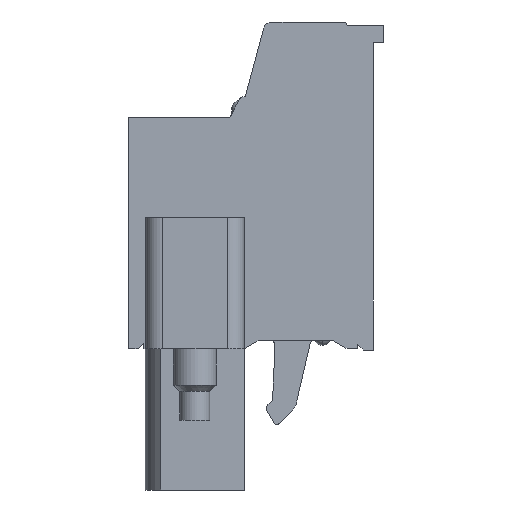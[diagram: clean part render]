
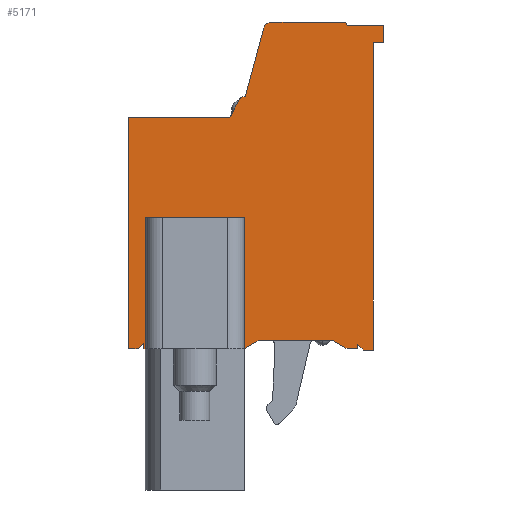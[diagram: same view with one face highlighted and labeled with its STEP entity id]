
A CAD part, front view. The second image highlights one B-rep face of the part: STEP entity #5171.
In plain terms, the highlighted planar face has unit normal (0, -1, 0).
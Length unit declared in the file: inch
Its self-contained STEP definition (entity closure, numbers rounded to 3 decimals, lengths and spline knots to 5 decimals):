
#142=DIRECTION('',(0.,0.,1.));
#143=VECTOR('',#142,0.53543);
#144=CARTESIAN_POINT('',(-0.23418,-1.215,2.78994));
#145=LINE('',#144,#143);
#166=DIRECTION('',(1.,0.,0.));
#167=VECTOR('',#166,0.23498);
#168=CARTESIAN_POINT('',(-0.23418,-1.215,3.32537));
#169=LINE('',#168,#167);
#271=DIRECTION('',(1.,0.,0.));
#272=VECTOR('',#271,0.00592);
#273=CARTESIAN_POINT('',(0.03042,-1.215,3.37261));
#274=LINE('',#273,#272);
#275=DIRECTION('',(0.259,0.,0.966));
#276=VECTOR('',#275,0.16423);
#277=CARTESIAN_POINT('',(0.03633,-1.215,3.37261));
#278=LINE('',#277,#276);
#288=DIRECTION('',(1.,0.,0.));
#289=VECTOR('',#288,0.166);
#290=CARTESIAN_POINT('',(0.09785,-1.215,3.54584));
#291=LINE('',#290,#289);
#308=DIRECTION('',(1.,0.,0.));
#309=VECTOR('',#308,0.08465);
#310=CARTESIAN_POINT('',(0.27172,-1.215,3.53797));
#311=LINE('',#310,#309);
#312=DIRECTION('',(0.,0.,-1.));
#313=VECTOR('',#312,0.03937);
#314=CARTESIAN_POINT('',(0.35637,-1.215,3.53797));
#315=LINE('',#314,#313);
#320=DIRECTION('',(-1.,0.,0.));
#321=VECTOR('',#320,0.02362);
#322=CARTESIAN_POINT('',(0.35637,-1.215,3.4986));
#323=LINE('',#322,#321);
#332=DIRECTION('',(0.,0.,-1.));
#333=VECTOR('',#332,0.71181);
#334=CARTESIAN_POINT('',(0.33275,-1.215,3.4986));
#335=LINE('',#334,#333);
#340=DIRECTION('',(-1.,0.,0.));
#341=VECTOR('',#340,0.02362);
#342=CARTESIAN_POINT('',(0.33275,-1.215,2.78679));
#343=LINE('',#342,#341);
#348=DIRECTION('',(-0.707,0.,0.707));
#349=VECTOR('',#348,0.01949);
#350=CARTESIAN_POINT('',(0.30913,-1.215,2.78679));
#351=LINE('',#350,#349);
#352=DIRECTION('',(0.,0.,-1.));
#353=VECTOR('',#352,0.01063);
#354=CARTESIAN_POINT('',(0.29535,-1.215,2.80057));
#355=LINE('',#354,#353);
#364=DIRECTION('',(-1.,0.,0.));
#365=VECTOR('',#364,0.02362);
#366=CARTESIAN_POINT('',(0.29535,-1.215,2.78994));
#367=LINE('',#366,#365);
#368=DIRECTION('',(-0.866,0.,0.5));
#369=VECTOR('',#368,0.03937);
#370=CARTESIAN_POINT('',(0.27172,-1.215,2.78994));
#371=LINE('',#370,#369);
#376=DIRECTION('',(-1.,0.,0.));
#377=VECTOR('',#376,0.16941);
#378=CARTESIAN_POINT('',(0.23763,-1.215,2.80962));
#379=LINE('',#378,#377);
#392=DIRECTION('',(-0.866,0.,-0.5));
#393=VECTOR('',#392,0.03937);
#394=CARTESIAN_POINT('',(0.06822,-1.215,2.80962));
#395=LINE('',#394,#393);
#1156=DIRECTION('',(0.,0.,1.));
#1157=VECTOR('',#1156,0.0126);
#1158=CARTESIAN_POINT('',(-0.19875,-1.215,2.78994));
#1159=LINE('',#1158,#1157);
#1160=DIRECTION('',(-0.707,0.,-0.707));
#1161=VECTOR('',#1160,0.01782);
#1162=CARTESIAN_POINT('',(-0.19875,-1.215,2.80254));
#1163=LINE('',#1162,#1161);
#1172=DIRECTION('',(-0.466,0.,-0.885));
#1173=VECTOR('',#1172,0.04863);
#1174=CARTESIAN_POINT('',(0.02345,-1.215,3.36841));
#1175=LINE('',#1174,#1173);
#1176=CARTESIAN_POINT('',(0.03042,-1.215,3.36474));
#1177=DIRECTION('',(0.,-1.,0.));
#1178=DIRECTION('',(0.,0.,1.));
#1179=AXIS2_PLACEMENT_3D('',#1176,#1177,#1178);
#1181=CARTESIAN_POINT('',(0.09785,-1.215,3.52616));
#1182=DIRECTION('',(0.,-1.,0.));
#1183=DIRECTION('',(0.,0.,1.));
#1184=AXIS2_PLACEMENT_3D('',#1181,#1182,#1183);
#1186=CARTESIAN_POINT('',(0.26385,-1.215,3.53797));
#1187=DIRECTION('',(0.,-1.,0.));
#1188=DIRECTION('',(1.,0.,0.));
#1189=AXIS2_PLACEMENT_3D('',#1186,#1187,#1188);
#1191=DIRECTION('',(0.,0.,-1.));
#1192=VECTOR('',#1191,0.30315);
#1193=CARTESIAN_POINT('',(0.03413,-1.215,3.09309));
#1194=LINE('',#1193,#1192);
#1195=DIRECTION('',(0.,0.,1.));
#1196=VECTOR('',#1195,0.30315);
#1197=CARTESIAN_POINT('',(-0.19422,-1.215,2.78994));
#1198=LINE('',#1197,#1196);
#1199=DIRECTION('',(1.,0.,0.));
#1200=VECTOR('',#1199,0.00453);
#1201=CARTESIAN_POINT('',(-0.19875,-1.215,2.78994));
#1202=LINE('',#1201,#1200);
#1203=DIRECTION('',(1.,0.,0.));
#1204=VECTOR('',#1203,0.02283);
#1205=CARTESIAN_POINT('',(-0.23418,-1.215,2.78994));
#1206=LINE('',#1205,#1204);
#1233=DIRECTION('',(-1.,0.,0.));
#1234=VECTOR('',#1233,0.22835);
#1235=CARTESIAN_POINT('',(0.03413,-1.215,3.09309));
#1236=LINE('',#1235,#1234);
#2784=CARTESIAN_POINT('',(0.27172,-1.215,3.53797));
#2785=VERTEX_POINT('',#2784);
#2786=CARTESIAN_POINT('',(0.26385,-1.215,3.54584));
#2787=VERTEX_POINT('',#2786);
#2822=CARTESIAN_POINT('',(0.03042,-1.215,3.37261));
#2823=CARTESIAN_POINT('',(0.02345,-1.215,3.36841));
#2824=VERTEX_POINT('',#2822);
#2825=VERTEX_POINT('',#2823);
#2826=CARTESIAN_POINT('',(0.03633,-1.215,3.37261));
#2827=VERTEX_POINT('',#2826);
#2828=CARTESIAN_POINT('',(0.23763,-1.215,2.80962));
#2829=VERTEX_POINT('',#2828);
#2830=CARTESIAN_POINT('',(0.27172,-1.215,2.78994));
#2831=VERTEX_POINT('',#2830);
#2832=CARTESIAN_POINT('',(0.07884,-1.215,3.53125));
#2833=VERTEX_POINT('',#2832);
#2842=CARTESIAN_POINT('',(0.09785,-1.215,3.54584));
#2843=VERTEX_POINT('',#2842);
#2902=CARTESIAN_POINT('',(0.35637,-1.215,3.53797));
#2903=VERTEX_POINT('',#2902);
#2904=CARTESIAN_POINT('',(0.35637,-1.215,3.4986));
#2905=CARTESIAN_POINT('',(0.33275,-1.215,3.4986));
#2906=VERTEX_POINT('',#2904);
#2907=VERTEX_POINT('',#2905);
#2908=CARTESIAN_POINT('',(0.30913,-1.215,2.78679));
#2909=VERTEX_POINT('',#2908);
#2910=CARTESIAN_POINT('',(0.33275,-1.215,2.78679));
#2911=VERTEX_POINT('',#2910);
#2912=CARTESIAN_POINT('',(0.29535,-1.215,2.80057));
#2913=VERTEX_POINT('',#2912);
#2992=CARTESIAN_POINT('',(0.0008,-1.215,3.32537));
#2993=VERTEX_POINT('',#2992);
#3032=CARTESIAN_POINT('',(-0.19422,-1.215,3.09309));
#3034=VERTEX_POINT('',#3032);
#3038=CARTESIAN_POINT('',(-0.19422,-1.215,2.78994));
#3039=VERTEX_POINT('',#3038);
#3254=CARTESIAN_POINT('',(0.03413,-1.215,2.78994));
#3256=VERTEX_POINT('',#3254);
#3260=CARTESIAN_POINT('',(0.03413,-1.215,3.09309));
#3261=VERTEX_POINT('',#3260);
#3262=CARTESIAN_POINT('',(-0.19875,-1.215,2.78994));
#3263=CARTESIAN_POINT('',(-0.19875,-1.215,2.80254));
#3264=VERTEX_POINT('',#3262);
#3265=VERTEX_POINT('',#3263);
#3324=CARTESIAN_POINT('',(-0.23418,-1.215,3.32537));
#3325=VERTEX_POINT('',#3324);
#3384=CARTESIAN_POINT('',(0.29535,-1.215,2.78994));
#3385=VERTEX_POINT('',#3384);
#3386=CARTESIAN_POINT('',(0.06822,-1.215,2.80962));
#3387=VERTEX_POINT('',#3386);
#3388=CARTESIAN_POINT('',(-0.21135,-1.215,2.78994));
#3389=VERTEX_POINT('',#3388);
#3390=CARTESIAN_POINT('',(-0.23418,-1.215,2.78994));
#3391=VERTEX_POINT('',#3390);
#5134=CARTESIAN_POINT('',(-2.7963,-1.215,5.1919));
#5135=DIRECTION('',(0.,1.,0.));
#5136=DIRECTION('',(0.,0.,1.));
#5137=AXIS2_PLACEMENT_3D('',#5134,#5135,#5136);
#5138=PLANE('',#5137);
#5139=ORIENTED_EDGE('',*,*,#3571,.T.);
#5140=ORIENTED_EDGE('',*,*,#3604,.T.);
#5141=ORIENTED_EDGE('',*,*,#3624,.F.);
#5142=ORIENTED_EDGE('',*,*,#3766,.F.);
#5143=ORIENTED_EDGE('',*,*,#3782,.T.);
#5144=ORIENTED_EDGE('',*,*,#3796,.T.);
#5145=ORIENTED_EDGE('',*,*,#3810,.F.);
#5146=ORIENTED_EDGE('',*,*,#3822,.T.);
#5147=ORIENTED_EDGE('',*,*,#3850,.F.);
#5148=ORIENTED_EDGE('',*,*,#3864,.T.);
#5149=ORIENTED_EDGE('',*,*,#3876,.T.);
#5150=ORIENTED_EDGE('',*,*,#3890,.T.);
#5151=ORIENTED_EDGE('',*,*,#3906,.T.);
#5152=ORIENTED_EDGE('',*,*,#3920,.T.);
#5153=ORIENTED_EDGE('',*,*,#3932,.T.);
#5154=ORIENTED_EDGE('',*,*,#3946,.T.);
#5155=ORIENTED_EDGE('',*,*,#3962,.T.);
#5156=ORIENTED_EDGE('',*,*,#3976,.T.);
#5157=ORIENTED_EDGE('',*,*,#3990,.T.);
#5158=ORIENTED_EDGE('',*,*,#4032,.T.);
#5160=ORIENTED_EDGE('',*,*,#5159,.F.);
#5162=ORIENTED_EDGE('',*,*,#5161,.T.);
#5164=ORIENTED_EDGE('',*,*,#5163,.F.);
#5165=ORIENTED_EDGE('',*,*,#4098,.F.);
#5166=ORIENTED_EDGE('',*,*,#5100,.T.);
#5167=ORIENTED_EDGE('',*,*,#5116,.T.);
#5168=ORIENTED_EDGE('',*,*,#5127,.F.);
#5169=EDGE_LOOP('',(#5139,#5140,#5141,#5142,#5143,#5144,#5145,#5146,#5147,#5148,
#5149,#5150,#5151,#5152,#5153,#5154,#5155,#5156,#5157,#5158,#5160,#5162,#5164,
#5165,#5166,#5167,#5168));
#5170=FACE_OUTER_BOUND('',#5169,.F.);
#5171=ADVANCED_FACE('',(#5170),#5138,.F.);
#1180=CIRCLE('',#1179,0.00787);
#1185=CIRCLE('',#1184,0.01969);
#1190=CIRCLE('',#1189,0.00787);
#3571=EDGE_CURVE('',#3391,#3325,#145,.T.);
#3604=EDGE_CURVE('',#3325,#2993,#169,.T.);
#3624=EDGE_CURVE('',#2825,#2993,#1175,.T.);
#3766=EDGE_CURVE('',#2824,#2825,#1180,.T.);
#3782=EDGE_CURVE('',#2824,#2827,#274,.T.);
#3796=EDGE_CURVE('',#2827,#2833,#278,.T.);
#3810=EDGE_CURVE('',#2843,#2833,#1185,.T.);
#3822=EDGE_CURVE('',#2843,#2787,#291,.T.);
#3850=EDGE_CURVE('',#2785,#2787,#1190,.T.);
#3864=EDGE_CURVE('',#2785,#2903,#311,.T.);
#3876=EDGE_CURVE('',#2903,#2906,#315,.T.);
#3890=EDGE_CURVE('',#2906,#2907,#323,.T.);
#3906=EDGE_CURVE('',#2907,#2911,#335,.T.);
#3920=EDGE_CURVE('',#2911,#2909,#343,.T.);
#3932=EDGE_CURVE('',#2909,#2913,#351,.T.);
#3946=EDGE_CURVE('',#2913,#3385,#355,.T.);
#3962=EDGE_CURVE('',#3385,#2831,#367,.T.);
#3976=EDGE_CURVE('',#2831,#2829,#371,.T.);
#3990=EDGE_CURVE('',#2829,#3387,#379,.T.);
#4032=EDGE_CURVE('',#3387,#3256,#395,.T.);
#4098=EDGE_CURVE('',#3264,#3039,#1202,.T.);
#5100=EDGE_CURVE('',#3264,#3265,#1159,.T.);
#5116=EDGE_CURVE('',#3265,#3389,#1163,.T.);
#5127=EDGE_CURVE('',#3391,#3389,#1206,.T.);
#5159=EDGE_CURVE('',#3261,#3256,#1194,.T.);
#5161=EDGE_CURVE('',#3261,#3034,#1236,.T.);
#5163=EDGE_CURVE('',#3039,#3034,#1198,.T.);
